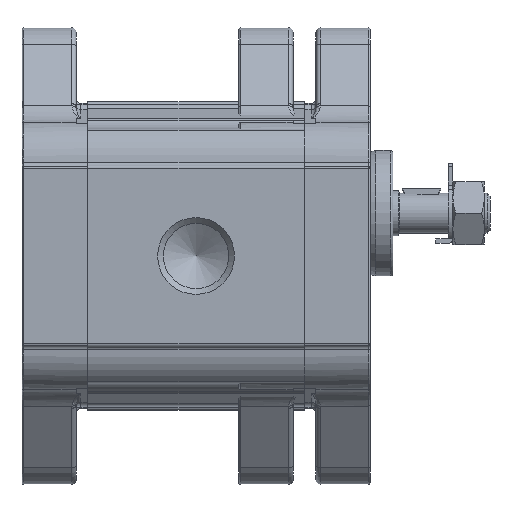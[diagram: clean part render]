
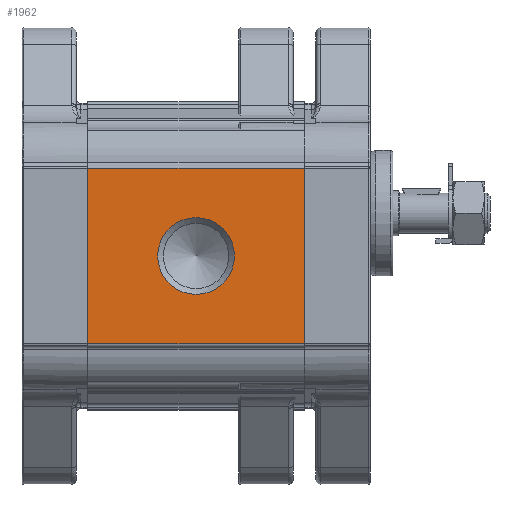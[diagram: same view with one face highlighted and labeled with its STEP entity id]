
A CAD part, left-side view. The second image highlights one B-rep face of the part: STEP entity #1962.
In plain terms, the highlighted planar face has unit normal (-1, 0, 0).
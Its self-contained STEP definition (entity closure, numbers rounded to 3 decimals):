
#1962 = ADVANCED_FACE( '', ( #4755, #4756 ), #4757, .T. );
#4755 = FACE_BOUND( '', #9138, .T. );
#4756 = FACE_OUTER_BOUND( '', #9139, .T. );
#4757 = PLANE( '', #9140 );
#9138 = EDGE_LOOP( '', ( #16601 ) );
#9139 = EDGE_LOOP( '', ( #16602, #16603, #16604, #16605 ) );
#9140 = AXIS2_PLACEMENT_3D( '', #16606, #16607, #16608 );
#16601 = ORIENTED_EDGE( '', *, *, #25616, .T. );
#16602 = ORIENTED_EDGE( '', *, *, #25617, .F. );
#16603 = ORIENTED_EDGE( '', *, *, #25618, .F. );
#16604 = ORIENTED_EDGE( '', *, *, #25619, .T. );
#16605 = ORIENTED_EDGE( '', *, *, #25620, .T. );
#16606 = CARTESIAN_POINT( '', ( -25., 38., 15.418 ) );
#16607 = DIRECTION( '', ( -1., 0., 0. ) );
#16608 = DIRECTION( '', ( 0., 0., 1. ) );
#25616 = EDGE_CURVE( '', #30988, #30988, #30989, .F. );
#25617 = EDGE_CURVE( '', #30990, #30991, #30992, .T. );
#25618 = EDGE_CURVE( '', #30993, #30990, #30994, .T. );
#25619 = EDGE_CURVE( '', #30993, #30995, #30996, .T. );
#25620 = EDGE_CURVE( '', #30995, #30991, #30997, .T. );
#30988 = VERTEX_POINT( '', #40278 );
#30989 = CIRCLE( '', #40279, 6.723 );
#30990 = VERTEX_POINT( '', #40280 );
#30991 = VERTEX_POINT( '', #40281 );
#30992 = LINE( '', #40282, #40283 );
#30993 = VERTEX_POINT( '', #40284 );
#30994 = LINE( '', #40285, #40286 );
#30995 = VERTEX_POINT( '', #40287 );
#30996 = LINE( '', #40288, #40289 );
#30997 = LINE( '', #40290, #40291 );
#40278 = CARTESIAN_POINT( '', ( -25., 19., 6.723 ) );
#40279 = AXIS2_PLACEMENT_3D( '', #48498, #48499, #48500 );
#40280 = CARTESIAN_POINT( '', ( -25., 0., 15.418 ) );
#40281 = CARTESIAN_POINT( '', ( -25., 0., -15.418 ) );
#40282 = CARTESIAN_POINT( '', ( -25., 0., 15.418 ) );
#40283 = VECTOR( '', #48501, 1000. );
#40284 = CARTESIAN_POINT( '', ( -25., 38., 15.418 ) );
#40285 = CARTESIAN_POINT( '', ( -25., 38., 15.418 ) );
#40286 = VECTOR( '', #48502, 1000. );
#40287 = CARTESIAN_POINT( '', ( -25., 38., -15.418 ) );
#40288 = CARTESIAN_POINT( '', ( -25., 38., 15.418 ) );
#40289 = VECTOR( '', #48503, 1000. );
#40290 = CARTESIAN_POINT( '', ( -25., 38., -15.418 ) );
#40291 = VECTOR( '', #48504, 1000. );
#48498 = CARTESIAN_POINT( '', ( -25., 19., 0. ) );
#48499 = DIRECTION( '', ( -1., 0., 0. ) );
#48500 = DIRECTION( '', ( 0., 0., 1. ) );
#48501 = DIRECTION( '', ( 0., 0., -1. ) );
#48502 = DIRECTION( '', ( 0., -1., 0. ) );
#48503 = DIRECTION( '', ( 0., 0., -1. ) );
#48504 = DIRECTION( '', ( 0., -1., 0. ) );
